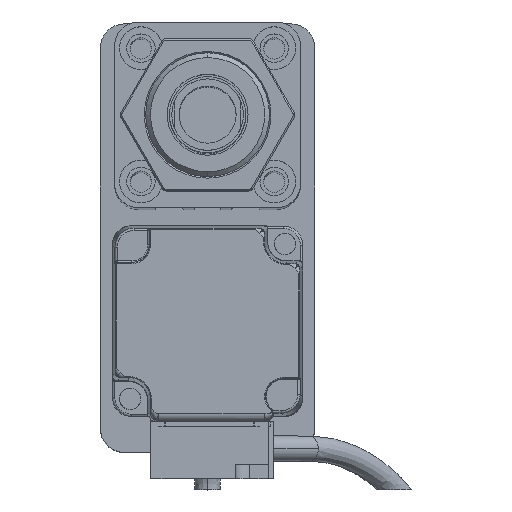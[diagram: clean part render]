
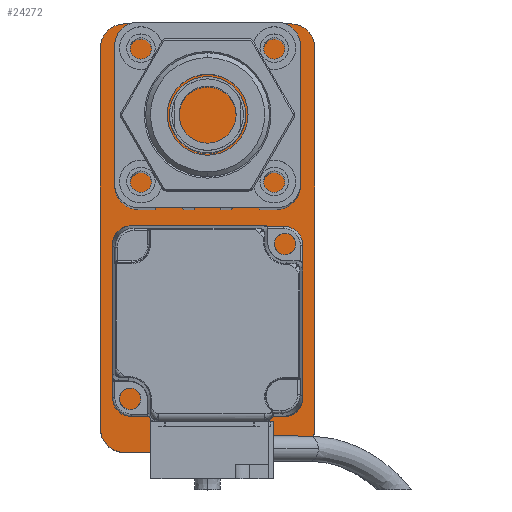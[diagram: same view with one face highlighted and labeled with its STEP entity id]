
A CAD part, top view. The second image highlights one B-rep face of the part: STEP entity #24272.
In plain terms, the highlighted planar face has unit normal (0, 0, 1).
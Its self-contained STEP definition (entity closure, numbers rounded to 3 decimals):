
#324 = DIRECTION ( 'NONE',  ( 1., 0., 0. ) ) ;
#1169 = LINE ( 'NONE', #2729, #8143 ) ;
#1477 = CIRCLE ( 'NONE', #9583, 5. ) ;
#1760 = EDGE_CURVE ( 'NONE', #5404, #6971, #13483, .T. ) ;
#2277 = VERTEX_POINT ( 'NONE', #10934 ) ;
#2388 = EDGE_LOOP ( 'NONE', ( #4154, #25137, #27617, #14469, #2686, #18944, #9575, #23071 ) ) ;
#2686 = ORIENTED_EDGE ( 'NONE', *, *, #21693, .T. ) ;
#2729 = CARTESIAN_POINT ( 'NONE',  ( -22.5, -45., 10. ) ) ;
#2924 = DIRECTION ( 'NONE',  ( 0., -1., 0. ) ) ;
#4154 = ORIENTED_EDGE ( 'NONE', *, *, #22619, .T. ) ;
#4187 = EDGE_CURVE ( 'NONE', #6971, #20984, #20451, .T. ) ;
#4437 = DIRECTION ( 'NONE',  ( 1., 0., 0. ) ) ;
#4797 = DIRECTION ( 'NONE',  ( 0., 0., 1. ) ) ;
#5356 = CARTESIAN_POINT ( 'NONE',  ( -17.5, 40., 10. ) ) ;
#5404 = VERTEX_POINT ( 'NONE', #9290 ) ;
#6116 = CARTESIAN_POINT ( 'NONE',  ( -22.5, 40., 10. ) ) ;
#6479 = CARTESIAN_POINT ( 'NONE',  ( 22.5, -45., 10. ) ) ;
#6573 = EDGE_CURVE ( 'NONE', #13618, #18188, #27398, .T. ) ;
#6655 = DIRECTION ( 'NONE',  ( 0., 1., 0. ) ) ;
#6971 = VERTEX_POINT ( 'NONE', #20725 ) ;
#7311 = VECTOR ( 'NONE', #18222, 1000. ) ;
#8143 = VECTOR ( 'NONE', #2924, 1000. ) ;
#8626 = CARTESIAN_POINT ( 'NONE',  ( 17.5, 40., 10. ) ) ;
#9290 = CARTESIAN_POINT ( 'NONE',  ( 22.5, 40., 10. ) ) ;
#9482 = CARTESIAN_POINT ( 'NONE',  ( 22.5, -45., 10. ) ) ;
#9575 = ORIENTED_EDGE ( 'NONE', *, *, #6573, .T. ) ;
#9583 = AXIS2_PLACEMENT_3D ( 'NONE', #5356, #9740, #11695 ) ;
#9740 = DIRECTION ( 'NONE',  ( 0., 0., 1. ) ) ;
#10365 = VECTOR ( 'NONE', #24010, 1000. ) ;
#10406 = DIRECTION ( 'NONE',  ( 0., 0., 1. ) ) ;
#10687 = DIRECTION ( 'NONE',  ( 0., 0., 1. ) ) ;
#10763 = AXIS2_PLACEMENT_3D ( 'NONE', #17559, #4797, #4437 ) ;
#10824 = CIRCLE ( 'NONE', #17436, 5. ) ;
#10934 = CARTESIAN_POINT ( 'NONE',  ( 22.5, -40., 10. ) ) ;
#11354 = VERTEX_POINT ( 'NONE', #6116 ) ;
#11695 = DIRECTION ( 'NONE',  ( 1., 0., 0. ) ) ;
#12467 = DIRECTION ( 'NONE',  ( 1., 0., 0. ) ) ;
#13011 = DIRECTION ( 'NONE',  ( 0., 0., 1. ) ) ;
#13483 = CIRCLE ( 'NONE', #19724, 5. ) ;
#13557 = AXIS2_PLACEMENT_3D ( 'NONE', #25377, #10406, #12467 ) ;
#13618 = VERTEX_POINT ( 'NONE', #20009 ) ;
#14355 = PLANE ( 'NONE',  #13557 ) ;
#14469 = ORIENTED_EDGE ( 'NONE', *, *, #22913, .T. ) ;
#14680 = CARTESIAN_POINT ( 'NONE',  ( -17.5, 45., 10. ) ) ;
#14758 = CARTESIAN_POINT ( 'NONE',  ( 17.5, -45., 10. ) ) ;
#14774 = EDGE_CURVE ( 'NONE', #18188, #2277, #10824, .T. ) ;
#15122 = FACE_OUTER_BOUND ( 'NONE', #2388, .T. ) ;
#17055 = EDGE_CURVE ( 'NONE', #20199, #13618, #20479, .T. ) ;
#17436 = AXIS2_PLACEMENT_3D ( 'NONE', #23542, #10687, #324 ) ;
#17559 = CARTESIAN_POINT ( 'NONE',  ( -17.5, -40., 10. ) ) ;
#18188 = VERTEX_POINT ( 'NONE', #14758 ) ;
#18222 = DIRECTION ( 'NONE',  ( 1., 0., 0. ) ) ;
#18593 = VECTOR ( 'NONE', #6655, 1000. ) ;
#18944 = ORIENTED_EDGE ( 'NONE', *, *, #17055, .T. ) ;
#19724 = AXIS2_PLACEMENT_3D ( 'NONE', #8626, #13011, #21573 ) ;
#20009 = CARTESIAN_POINT ( 'NONE',  ( -17.5, -45., 10. ) ) ;
#20199 = VERTEX_POINT ( 'NONE', #27654 ) ;
#20451 = LINE ( 'NONE', #25970, #10365 ) ;
#20479 = CIRCLE ( 'NONE', #10763, 5. ) ;
#20725 = CARTESIAN_POINT ( 'NONE',  ( 17.5, 45., 10. ) ) ;
#20984 = VERTEX_POINT ( 'NONE', #14680 ) ;
#21573 = DIRECTION ( 'NONE',  ( 1., 0., 0. ) ) ;
#21693 = EDGE_CURVE ( 'NONE', #11354, #20199, #1169, .T. ) ;
#22619 = EDGE_CURVE ( 'NONE', #2277, #5404, #24916, .T. ) ;
#22913 = EDGE_CURVE ( 'NONE', #20984, #11354, #1477, .T. ) ;
#23071 = ORIENTED_EDGE ( 'NONE', *, *, #14774, .T. ) ;
#23542 = CARTESIAN_POINT ( 'NONE',  ( 17.5, -40., 10. ) ) ;
#24010 = DIRECTION ( 'NONE',  ( -1., 0., 0. ) ) ;
#24272 = ADVANCED_FACE ( 'NONE', ( #15122 ), #14355, .T. ) ;
#24916 = LINE ( 'NONE', #6479, #18593 ) ;
#25137 = ORIENTED_EDGE ( 'NONE', *, *, #1760, .T. ) ;
#25377 = CARTESIAN_POINT ( 'NONE',  ( 0., 0., 10. ) ) ;
#25970 = CARTESIAN_POINT ( 'NONE',  ( 22.5, 45., 10. ) ) ;
#27398 = LINE ( 'NONE', #9482, #7311 ) ;
#27617 = ORIENTED_EDGE ( 'NONE', *, *, #4187, .T. ) ;
#27654 = CARTESIAN_POINT ( 'NONE',  ( -22.5, -40., 10. ) ) ;
